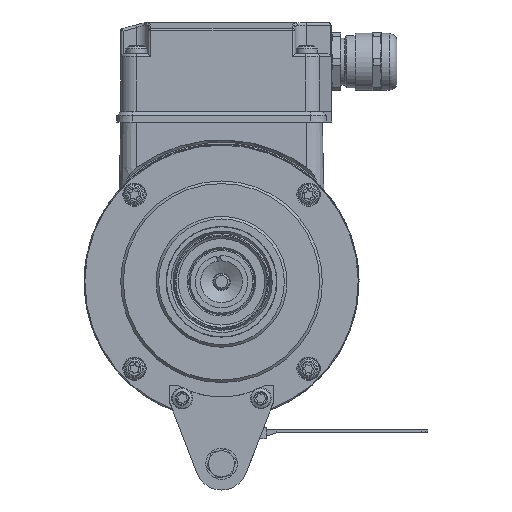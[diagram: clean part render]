
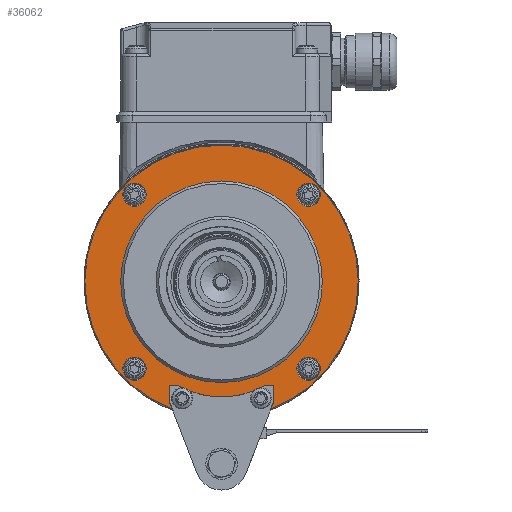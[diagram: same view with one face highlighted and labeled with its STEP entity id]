
A CAD part, left-side view. The second image highlights one B-rep face of the part: STEP entity #36062.
In plain terms, the highlighted planar face has unit normal (-1, 0, 0).
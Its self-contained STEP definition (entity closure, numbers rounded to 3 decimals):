
#2456=FACE_BOUND('',#6174,.T.);
#2457=FACE_BOUND('',#6175,.T.);
#2458=FACE_BOUND('',#6176,.T.);
#2459=FACE_BOUND('',#6177,.T.);
#2460=FACE_BOUND('',#6178,.T.);
#3629=FACE_OUTER_BOUND('',#6173,.T.);
#6173=EDGE_LOOP('',(#27491,#27492,#27493,#27494,#27495,#27496,#27497,#27498));
#6174=EDGE_LOOP('',(#27499));
#6175=EDGE_LOOP('',(#27500));
#6176=EDGE_LOOP('',(#27501));
#6177=EDGE_LOOP('',(#27502));
#6178=EDGE_LOOP('',(#27503));
#8481=CIRCLE('',#39097,3.85);
#8484=CIRCLE('',#39103,5.22);
#8490=CIRCLE('',#39113,0.445);
#8492=CIRCLE('',#39116,0.445);
#8494=CIRCLE('',#39119,0.445);
#8495=CIRCLE('',#39121,3.35);
#8496=CIRCLE('',#39122,0.445);
#10221=LINE('',#59513,#13017);
#10222=LINE('',#59515,#13018);
#10223=LINE('',#59517,#13019);
#10224=LINE('',#59519,#13020);
#10225=LINE('',#59523,#13021);
#10226=LINE('',#59524,#13022);
#13017=VECTOR('',#45358,0.345);
#13018=VECTOR('',#45359,0.345);
#13019=VECTOR('',#45360,0.6);
#13020=VECTOR('',#45361,0.323);
#13021=VECTOR('',#45364,0.323);
#13022=VECTOR('',#45365,0.6);
#16145=VERTEX_POINT('',#59474);
#16148=VERTEX_POINT('',#59483);
#16149=VERTEX_POINT('',#59484);
#16154=VERTEX_POINT('',#59499);
#16156=VERTEX_POINT('',#59504);
#16158=VERTEX_POINT('',#59509);
#16159=VERTEX_POINT('',#59512);
#16160=VERTEX_POINT('',#59514);
#16161=VERTEX_POINT('',#59516);
#16162=VERTEX_POINT('',#59518);
#16163=VERTEX_POINT('',#59520);
#16164=VERTEX_POINT('',#59522);
#16165=VERTEX_POINT('',#59525);
#20286=EDGE_CURVE('',#16145,#16145,#8481,.T.);
#20289=EDGE_CURVE('',#16148,#16149,#8484,.T.);
#20295=EDGE_CURVE('',#16154,#16154,#8490,.T.);
#20297=EDGE_CURVE('',#16156,#16156,#8492,.T.);
#20299=EDGE_CURVE('',#16158,#16158,#8494,.T.);
#20300=EDGE_CURVE('',#16159,#16149,#10221,.T.);
#20301=EDGE_CURVE('',#16148,#16160,#10222,.T.);
#20302=EDGE_CURVE('',#16160,#16161,#10223,.T.);
#20303=EDGE_CURVE('',#16161,#16162,#10224,.T.);
#20304=EDGE_CURVE('',#16162,#16163,#8495,.T.);
#20305=EDGE_CURVE('',#16163,#16164,#10225,.T.);
#20306=EDGE_CURVE('',#16164,#16159,#10226,.T.);
#20307=EDGE_CURVE('',#16165,#16165,#8496,.T.);
#27491=ORIENTED_EDGE('',*,*,#20300,.T.);
#27492=ORIENTED_EDGE('',*,*,#20289,.F.);
#27493=ORIENTED_EDGE('',*,*,#20301,.T.);
#27494=ORIENTED_EDGE('',*,*,#20302,.T.);
#27495=ORIENTED_EDGE('',*,*,#20303,.T.);
#27496=ORIENTED_EDGE('',*,*,#20304,.T.);
#27497=ORIENTED_EDGE('',*,*,#20305,.T.);
#27498=ORIENTED_EDGE('',*,*,#20306,.T.);
#27499=ORIENTED_EDGE('',*,*,#20299,.F.);
#27500=ORIENTED_EDGE('',*,*,#20295,.F.);
#27501=ORIENTED_EDGE('',*,*,#20286,.T.);
#27502=ORIENTED_EDGE('',*,*,#20297,.F.);
#27503=ORIENTED_EDGE('',*,*,#20307,.F.);
#34488=PLANE('',#39120);
#36062=ADVANCED_FACE('',(#3629,#2456,#2457,#2458,#2459,#2460),#34488,.T.);
#39097=AXIS2_PLACEMENT_3D('',#59475,#45310,#45311);
#39103=AXIS2_PLACEMENT_3D('',#59485,#45322,#45323);
#39113=AXIS2_PLACEMENT_3D('',#59500,#45342,#45343);
#39116=AXIS2_PLACEMENT_3D('',#59505,#45348,#45349);
#39119=AXIS2_PLACEMENT_3D('',#59510,#45354,#45355);
#39120=AXIS2_PLACEMENT_3D('',#59511,#45356,#45357);
#39121=AXIS2_PLACEMENT_3D('',#59521,#45362,#45363);
#39122=AXIS2_PLACEMENT_3D('',#59526,#45366,#45367);
#45310=DIRECTION('center_axis',(1.,0.,0.));
#45311=DIRECTION('ref_axis',(0.,1.,0.));
#45322=DIRECTION('center_axis',(1.,0.,0.));
#45323=DIRECTION('ref_axis',(0.,-1.,0.));
#45342=DIRECTION('center_axis',(-1.,0.,0.));
#45343=DIRECTION('ref_axis',(0.,0.,-1.));
#45348=DIRECTION('center_axis',(-1.,0.,0.));
#45349=DIRECTION('ref_axis',(0.,0.,-1.));
#45354=DIRECTION('center_axis',(-1.,0.,0.));
#45355=DIRECTION('ref_axis',(0.,0.,-1.));
#45356=DIRECTION('center_axis',(-1.,0.,0.));
#45357=DIRECTION('ref_axis',(0.,0.,1.));
#45358=DIRECTION('',(0.,0.361,-0.933));
#45359=DIRECTION('',(0.,0.361,0.933));
#45360=DIRECTION('',(0.,0.,1.));
#45361=DIRECTION('',(0.,-1.,0.));
#45362=DIRECTION('center_axis',(-1.,0.,0.));
#45363=DIRECTION('ref_axis',(0.,0.501,-0.866));
#45364=DIRECTION('',(0.,-1.,0.));
#45365=DIRECTION('',(0.,0.,-1.));
#45366=DIRECTION('center_axis',(-1.,0.,0.));
#45367=DIRECTION('ref_axis',(0.,0.,-1.));
#59474=CARTESIAN_POINT('',(2.553,3.85,0.));
#59475=CARTESIAN_POINT('Origin',(2.553,0.,0.));
#59483=CARTESIAN_POINT('',(2.553,1.876,-4.871));
#59484=CARTESIAN_POINT('',(2.553,-1.876,-4.871));
#59485=CARTESIAN_POINT('Origin',(2.553,0.,0.));
#59499=CARTESIAN_POINT('',(2.553,3.323,3.768));
#59500=CARTESIAN_POINT('Origin',(2.553,3.323,3.323));
#59504=CARTESIAN_POINT('',(2.553,3.323,-2.878));
#59505=CARTESIAN_POINT('Origin',(2.553,3.323,-3.323));
#59509=CARTESIAN_POINT('',(2.553,-3.323,-2.878));
#59510=CARTESIAN_POINT('Origin',(2.553,-3.323,-3.323));
#59511=CARTESIAN_POINT('Origin',(2.553,4.55,0.));
#59512=CARTESIAN_POINT('',(2.553,-2.,-4.55));
#59513=CARTESIAN_POINT('',(2.553,-2.339,-3.672));
#59514=CARTESIAN_POINT('',(2.553,2.,-4.55));
#59515=CARTESIAN_POINT('',(2.553,2.397,-3.522));
#59516=CARTESIAN_POINT('',(2.553,2.,-3.95));
#59517=CARTESIAN_POINT('',(2.553,2.,-2.275));
#59518=CARTESIAN_POINT('',(2.553,1.677,-3.95));
#59519=CARTESIAN_POINT('',(2.553,3.275,-3.95));
#59520=CARTESIAN_POINT('',(2.553,-1.677,-3.95));
#59521=CARTESIAN_POINT('Origin',(2.553,0.,-1.05));
#59522=CARTESIAN_POINT('',(2.553,-2.,-3.95));
#59523=CARTESIAN_POINT('',(2.553,1.436,-3.95));
#59524=CARTESIAN_POINT('',(2.553,-2.,-1.975));
#59525=CARTESIAN_POINT('',(2.553,-3.323,3.768));
#59526=CARTESIAN_POINT('Origin',(2.553,-3.323,3.323));
